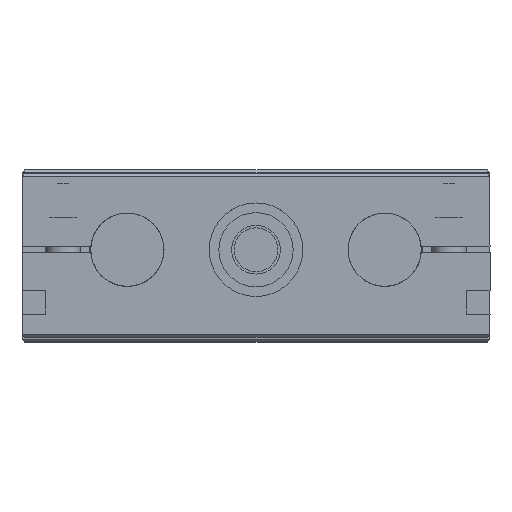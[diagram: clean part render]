
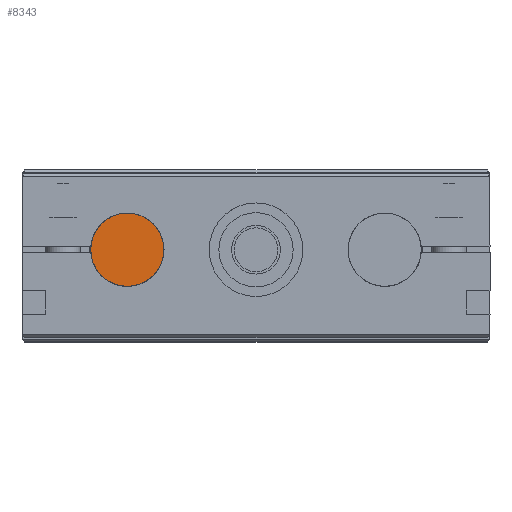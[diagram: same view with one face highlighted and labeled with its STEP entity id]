
A CAD part, top view. The second image highlights one B-rep face of the part: STEP entity #8343.
In plain terms, the highlighted planar face has unit normal (0, 0, 1) as drawn and (1, 0, 0) by its records, which use the part's own axes.
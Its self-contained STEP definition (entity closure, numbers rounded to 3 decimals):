
#5019 = CARTESIAN_POINT ( 'NONE',  ( 455., 30., 56.5 ) ) ;
#8343 = ADVANCED_FACE ( 'NONE', ( #67847 ), #57097, .T. ) ;
#8796 = DIRECTION ( 'NONE',  ( 0., 0., -1. ) ) ;
#9603 = EDGE_CURVE ( 'NONE', #35180, #41452, #9895, .T. ) ;
#9895 = CIRCLE ( 'NONE', #27682, 12.5 ) ;
#11241 = CARTESIAN_POINT ( 'NONE',  ( 455., 30., 44. ) ) ;
#15090 = CIRCLE ( 'NONE', #25746, 12.5 ) ;
#16065 = DIRECTION ( 'NONE',  ( 0., 0., -1. ) ) ;
#19534 = DIRECTION ( 'NONE',  ( 1., 0., 0. ) ) ;
#21590 = ORIENTED_EDGE ( 'NONE', *, *, #69130, .T. ) ;
#24333 = AXIS2_PLACEMENT_3D ( 'NONE', #11241, #62684, #16065 ) ;
#25746 = AXIS2_PLACEMENT_3D ( 'NONE', #36600, #41025, #8796 ) ;
#27682 = AXIS2_PLACEMENT_3D ( 'NONE', #60237, #19534, #53940 ) ;
#30038 = CARTESIAN_POINT ( 'NONE',  ( 455., 30., 31.5 ) ) ;
#35180 = VERTEX_POINT ( 'NONE', #5019 ) ;
#36600 = CARTESIAN_POINT ( 'NONE',  ( 455., 30., 44. ) ) ;
#41025 = DIRECTION ( 'NONE',  ( 1., 0., 0. ) ) ;
#41452 = VERTEX_POINT ( 'NONE', #30038 ) ;
#41962 = EDGE_LOOP ( 'NONE', ( #21590, #54505 ) ) ;
#53940 = DIRECTION ( 'NONE',  ( 0., 0., -1. ) ) ;
#54505 = ORIENTED_EDGE ( 'NONE', *, *, #9603, .T. ) ;
#57097 = PLANE ( 'NONE',  #24333 ) ;
#60237 = CARTESIAN_POINT ( 'NONE',  ( 455., 30., 44. ) ) ;
#62684 = DIRECTION ( 'NONE',  ( 1., 0., 0. ) ) ;
#67847 = FACE_OUTER_BOUND ( 'NONE', #41962, .T. ) ;
#69130 = EDGE_CURVE ( 'NONE', #41452, #35180, #15090, .T. ) ;
